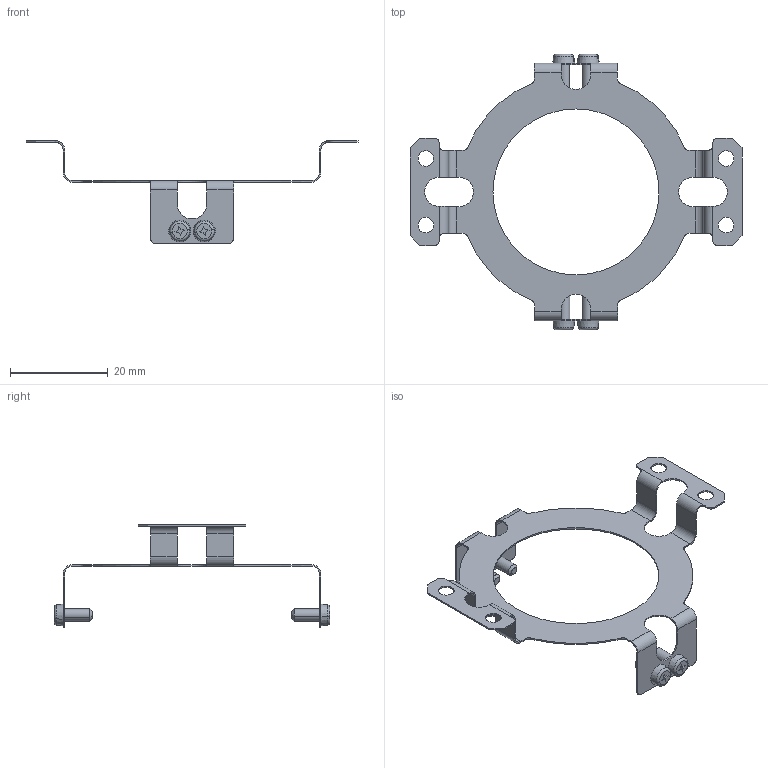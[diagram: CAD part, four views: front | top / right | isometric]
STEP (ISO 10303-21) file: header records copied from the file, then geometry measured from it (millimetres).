
FILE_DESCRIPTION (( 'STEP AP214' ), '1' );
FILE_NAME ('8.0010.4048.00FS.STEP', '2014-11-06T13:59:21', ( 'admin' ), ( 'Microsoft' ), 'SwSTEP 2.0', 'SolidWorks 2013', '' );
FILE_SCHEMA (( 'AUTOMOTIVE_DESIGN' ));
Length unit declared in the file: millimetre
Products named in the file (3): 8.0010.4048.00FS; N630301_Schraube_DIN7985,M2.5x6,verni.~0; N510286_SIL_Statorkupplung~3
Assembly tree (5 placements, depth 2):
  8.0010.4048.00FS
    N510286_SIL_Statorkupplung~3
    N630301_Schraube_DIN7985,M2.5x6,verni.~0  x4
Bounding box: 68 x 56.4 x 21.03 mm (x, y, z)
Volume: 708.3 mm3; surface area: 3940.1 mm2
Topology: 5 solids, 5 shells, 251 faces, 611 edges, 370 vertices
Faces by surface type: plane 138, cylinder 85, cone 16, torus 8, bspline 4
Entity records: 6546 total; most frequent: CARTESIAN_POINT 1450, DIRECTION 1021, ORIENTED_EDGE 958, EDGE_CURVE 479, AXIS2_PLACEMENT_3D 363, LINE 295, VECTOR 295, VERTEX_POINT 286
